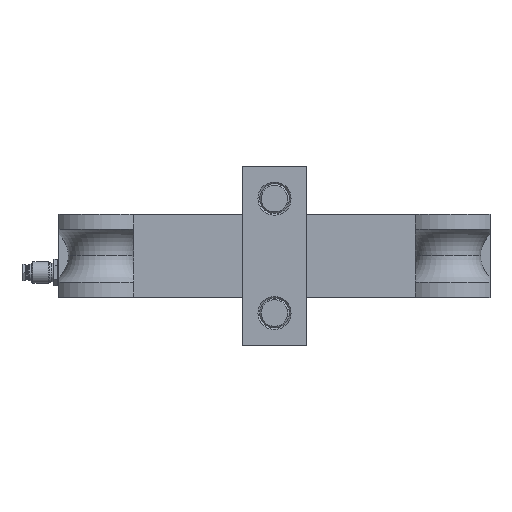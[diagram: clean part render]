
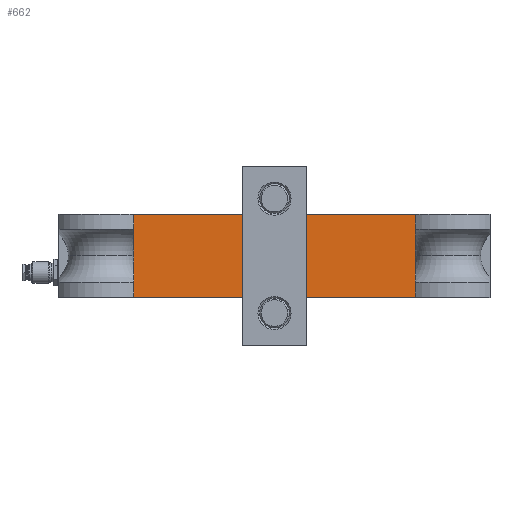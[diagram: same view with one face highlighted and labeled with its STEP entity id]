
A CAD part, top view. The second image highlights one B-rep face of the part: STEP entity #662.
In plain terms, the highlighted planar face has unit normal (0, 0, 1).
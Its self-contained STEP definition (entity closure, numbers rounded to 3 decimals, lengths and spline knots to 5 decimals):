
#662=ADVANCED_FACE('0:80',(#1378),#1379,.T.);
#1378=FACE_OUTER_BOUND('',#2283,.T.);
#1379=PLANE('',#2284);
#2283=EDGE_LOOP('',(#3494,#3495,#3496,#3497,#3498,#3499,#3500,#3501));
#2284=AXIS2_PLACEMENT_3D('',#3502,#3503,#3504);
#3494=ORIENTED_EDGE('',*,*,#5712,.T.);
#3495=ORIENTED_EDGE('',*,*,#5713,.F.);
#3496=ORIENTED_EDGE('',*,*,#5714,.F.);
#3497=ORIENTED_EDGE('',*,*,#5706,.T.);
#3498=ORIENTED_EDGE('',*,*,#5715,.T.);
#3499=ORIENTED_EDGE('',*,*,#5703,.T.);
#3500=ORIENTED_EDGE('',*,*,#5716,.T.);
#3501=ORIENTED_EDGE('',*,*,#5717,.F.);
#3502=CARTESIAN_POINT('',(0.0,-0.018,0.035));
#3503=DIRECTION('',(-0.0,0.0,1.0));
#3504=DIRECTION('',(1.0,-0.0,0.0));
#5703=EDGE_CURVE('0:212',#6629,#6638,#6640,.F.);
#5706=EDGE_CURVE('0:218',#6645,#6643,#6646,.F.);
#5712=EDGE_CURVE('0:233',#6655,#6656,#6657,.T.);
#5713=EDGE_CURVE('0:236',#6658,#6656,#6659,.T.);
#5714=EDGE_CURVE('0:239',#6645,#6658,#6660,.T.);
#5715=EDGE_CURVE('0:242',#6643,#6629,#6661,.T.);
#5716=EDGE_CURVE('0:245',#6638,#6662,#6663,.T.);
#5717=EDGE_CURVE('0:248',#6655,#6662,#6664,.T.);
#6629=VERTEX_POINT('',#7914);
#6638=VERTEX_POINT('',#7927);
#6640=LINE('',#7930,#7931);
#6643=VERTEX_POINT('',#7934);
#6645=VERTEX_POINT('',#7937);
#6646=LINE('',#7938,#7939);
#6655=VERTEX_POINT('',#7952);
#6656=VERTEX_POINT('',#7953);
#6657=CIRCLE('',#7954,0.013);
#6658=VERTEX_POINT('',#7955);
#6659=LINE('',#7956,#7957);
#6660=LINE('',#7958,#7959);
#6661=CIRCLE('',#7960,0.013);
#6662=VERTEX_POINT('',#7961);
#6663=LINE('',#7962,#7963);
#6664=LINE('',#7964,#7965);
#7914=CARTESIAN_POINT('',(-0.08887,0.007,0.035));
#7927=CARTESIAN_POINT('',(-0.165,0.007,0.035));
#7930=CARTESIAN_POINT('',(0.0,0.007,0.035));
#7931=VECTOR('',#10883,1.0);
#7934=CARTESIAN_POINT('',(-0.07113,0.007,0.035));
#7937=CARTESIAN_POINT('',(0.005,0.007,0.035));
#7938=CARTESIAN_POINT('',(0.0,0.007,0.035));
#7939=VECTOR('',#10885,1.0);
#7952=CARTESIAN_POINT('',(-0.08887,-0.043,0.035));
#7953=CARTESIAN_POINT('',(-0.07113,-0.043,0.035));
#7954=AXIS2_PLACEMENT_3D('',#10890,#10891,#10892);
#7955=CARTESIAN_POINT('',(0.005,-0.043,0.035));
#7956=CARTESIAN_POINT('',(0.0,-0.043,0.035));
#7957=VECTOR('',#10893,1.0);
#7958=CARTESIAN_POINT('',(0.005,-0.009,0.035));
#7959=VECTOR('',#10894,1.0);
#7960=AXIS2_PLACEMENT_3D('',#10895,#10896,#10897);
#7961=CARTESIAN_POINT('',(-0.165,-0.043,0.035));
#7962=CARTESIAN_POINT('',(-0.165,-0.009,0.035));
#7963=VECTOR('',#10898,1.0);
#7964=CARTESIAN_POINT('',(0.0,-0.043,0.035));
#7965=VECTOR('',#10899,1.0);
#10883=DIRECTION('',(1.0,0.0,-0.0));
#10885=DIRECTION('',(1.0,0.0,-0.0));
#10890=CARTESIAN_POINT('',(-0.08,-0.0525,0.035));
#10891=DIRECTION('',(0.0,0.0,-1.0));
#10892=DIRECTION('',(1.0,0.,0.0));
#10893=DIRECTION('',(-1.0,0.0,0.0));
#10894=DIRECTION('',(0.0,-1.0,-0.0));
#10895=CARTESIAN_POINT('',(-0.08,0.0165,0.035));
#10896=DIRECTION('',(0.0,0.0,-1.0));
#10897=DIRECTION('',(1.0,0.,0.0));
#10898=DIRECTION('',(0.0,-1.0,-0.0));
#10899=DIRECTION('',(-1.0,0.0,0.0));
